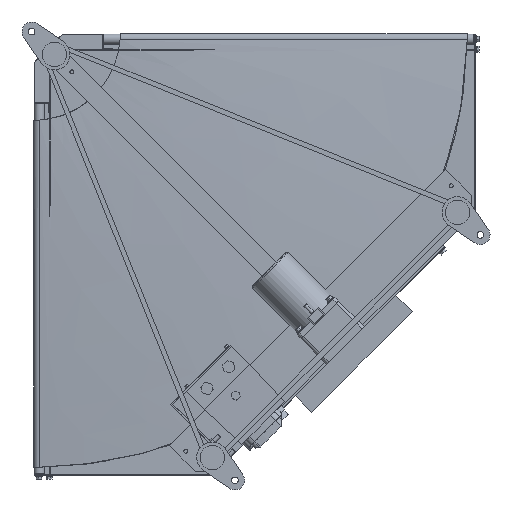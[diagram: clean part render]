
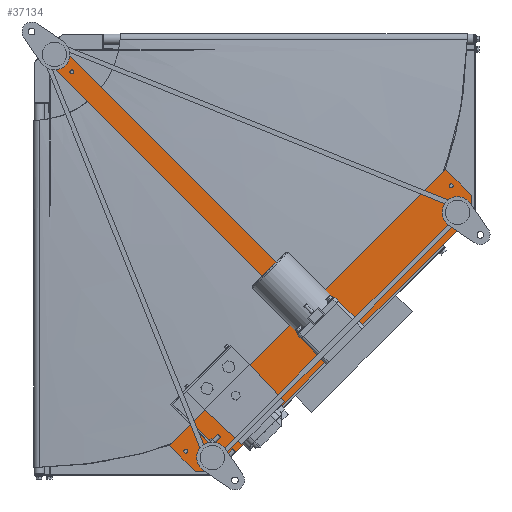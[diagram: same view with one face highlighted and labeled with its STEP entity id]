
A CAD part, front view. The second image highlights one B-rep face of the part: STEP entity #37134.
In plain terms, the highlighted planar face has unit normal (0, -1, 0).
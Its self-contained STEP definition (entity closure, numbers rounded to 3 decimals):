
#822 = CARTESIAN_POINT ( 'NONE',  ( 266.226, -167.5, -807.162 ) ) ;
#1287 = VERTEX_POINT ( 'NONE', #45456 ) ;
#2416 = LINE ( 'NONE', #34209, #37251 ) ;
#2473 = CARTESIAN_POINT ( 'NONE',  ( 550.129, -167.5, -523.259 ) ) ;
#3254 = ORIENTED_EDGE ( 'NONE', *, *, #13149, .F. ) ;
#3820 = EDGE_CURVE ( 'NONE', #4958, #10342, #36141, .T. ) ;
#4453 = ORIENTED_EDGE ( 'NONE', *, *, #46258, .F. ) ;
#4953 = VECTOR ( 'NONE', #35619, 1000. ) ;
#4958 = VERTEX_POINT ( 'NONE', #2473 ) ;
#5278 = VECTOR ( 'NONE', #24528, 1000. ) ;
#5934 = VECTOR ( 'NONE', #40642, 1000. ) ;
#6686 = LINE ( 'NONE', #33157, #11586 ) ;
#8004 = VERTEX_POINT ( 'NONE', #822 ) ;
#8552 = LINE ( 'NONE', #18739, #31273 ) ;
#8652 = LINE ( 'NONE', #12112, #36786 ) ;
#10241 = CARTESIAN_POINT ( 'NONE',  ( 266.226, -167.5, -807.162 ) ) ;
#10342 = VERTEX_POINT ( 'NONE', #43401 ) ;
#11586 = VECTOR ( 'NONE', #20907, 1000. ) ;
#11657 = CARTESIAN_POINT ( 'NONE',  ( 856.66, -167.5, -358.15 ) ) ;
#12112 = CARTESIAN_POINT ( 'NONE',  ( 358.15, -167.5, -856.66 ) ) ;
#12774 = LINE ( 'NONE', #47061, #17686 ) ;
#13149 = EDGE_CURVE ( 'NONE', #8004, #1287, #2416, .T. ) ;
#13194 = EDGE_CURVE ( 'NONE', #14171, #8004, #48831, .T. ) ;
#14171 = VERTEX_POINT ( 'NONE', #46289 ) ;
#16484 = VECTOR ( 'NONE', #25883, 1000. ) ;
#16563 = AXIS2_PLACEMENT_3D ( 'NONE', #17026, #20847, #32269 ) ;
#16602 = CARTESIAN_POINT ( 'NONE',  ( 15.203, -167.5, -42.073 ) ) ;
#16611 = ORIENTED_EDGE ( 'NONE', *, *, #13194, .F. ) ;
#17026 = CARTESIAN_POINT ( 'NONE',  ( 0., -167.5, 0. ) ) ;
#17686 = VECTOR ( 'NONE', #39390, 1000. ) ;
#18739 = CARTESIAN_POINT ( 'NONE',  ( 42.073, -167.5, -15.203 ) ) ;
#19861 = DIRECTION ( 'NONE',  ( -0.707, 0., -0.707 ) ) ;
#20017 = EDGE_CURVE ( 'NONE', #10342, #20796, #47992, .T. ) ;
#20572 = VECTOR ( 'NONE', #41316, 1000. ) ;
#20773 = EDGE_CURVE ( 'NONE', #47852, #36029, #8652, .T. ) ;
#20796 = VERTEX_POINT ( 'NONE', #46800 ) ;
#20847 = DIRECTION ( 'NONE',  ( 0., -1., 0. ) ) ;
#20907 = DIRECTION ( 'NONE',  ( 0., 0., -1. ) ) ;
#21478 = ORIENTED_EDGE ( 'NONE', *, *, #20773, .F. ) ;
#22632 = DIRECTION ( 'NONE',  ( 0.707, 0., 0.707 ) ) ;
#22721 = DIRECTION ( 'NONE',  ( 0.707, 0., -0.707 ) ) ;
#23891 = CARTESIAN_POINT ( 'NONE',  ( 266.226, -167.5, -807.162 ) ) ;
#24431 = EDGE_CURVE ( 'NONE', #1287, #49533, #12774, .T. ) ;
#24528 = DIRECTION ( 'NONE',  ( 0.707, 0., 0.707 ) ) ;
#24616 = ORIENTED_EDGE ( 'NONE', *, *, #30651, .F. ) ;
#25599 = EDGE_CURVE ( 'NONE', #49533, #36433, #26788, .T. ) ;
#25883 = DIRECTION ( 'NONE',  ( -0.707, 0., 0.707 ) ) ;
#26093 = ORIENTED_EDGE ( 'NONE', *, *, #34996, .F. ) ;
#26285 = CARTESIAN_POINT ( 'NONE',  ( 15.203, -167.5, -42.073 ) ) ;
#26788 = LINE ( 'NONE', #16602, #5278 ) ;
#27123 = CARTESIAN_POINT ( 'NONE',  ( 42.073, -167.5, -15.203 ) ) ;
#30651 = EDGE_CURVE ( 'NONE', #20796, #47852, #6686, .T. ) ;
#31273 = VECTOR ( 'NONE', #22721, 1000. ) ;
#32157 = ORIENTED_EDGE ( 'NONE', *, *, #24431, .F. ) ;
#32269 = DIRECTION ( 'NONE',  ( 0., 0., -1. ) ) ;
#33157 = CARTESIAN_POINT ( 'NONE',  ( 856.66, -167.5, -358.15 ) ) ;
#33702 = CARTESIAN_POINT ( 'NONE',  ( 807.162, -167.5, -266.226 ) ) ;
#34209 = CARTESIAN_POINT ( 'NONE',  ( 266.226, -167.5, -807.162 ) ) ;
#34996 = EDGE_CURVE ( 'NONE', #36433, #4958, #8552, .T. ) ;
#35619 = DIRECTION ( 'NONE',  ( 0.707, 0., 0.707 ) ) ;
#36029 = VERTEX_POINT ( 'NONE', #39332 ) ;
#36141 = LINE ( 'NONE', #23891, #4953 ) ;
#36251 = CARTESIAN_POINT ( 'NONE',  ( 315.723, -167.5, -856.66 ) ) ;
#36433 = VERTEX_POINT ( 'NONE', #27123 ) ;
#36786 = VECTOR ( 'NONE', #19861, 1000. ) ;
#37134 = ADVANCED_FACE ( 'NONE', ( #38573 ), #40071, .T. ) ;
#37251 = VECTOR ( 'NONE', #22632, 1000. ) ;
#38573 = FACE_OUTER_BOUND ( 'NONE', #46958, .T. ) ;
#39332 = CARTESIAN_POINT ( 'NONE',  ( 358.15, -167.5, -856.66 ) ) ;
#39390 = DIRECTION ( 'NONE',  ( -0.707, 0., 0.707 ) ) ;
#40071 = PLANE ( 'NONE',  #16563 ) ;
#40510 = ORIENTED_EDGE ( 'NONE', *, *, #20017, .F. ) ;
#40642 = DIRECTION ( 'NONE',  ( -1., 0., 0. ) ) ;
#41316 = DIRECTION ( 'NONE',  ( 0.707, 0., -0.707 ) ) ;
#41669 = ORIENTED_EDGE ( 'NONE', *, *, #3820, .F. ) ;
#43401 = CARTESIAN_POINT ( 'NONE',  ( 807.162, -167.5, -266.226 ) ) ;
#45456 = CARTESIAN_POINT ( 'NONE',  ( 523.259, -167.5, -550.129 ) ) ;
#46258 = EDGE_CURVE ( 'NONE', #36029, #14171, #47511, .T. ) ;
#46289 = CARTESIAN_POINT ( 'NONE',  ( 315.723, -167.5, -856.66 ) ) ;
#46800 = CARTESIAN_POINT ( 'NONE',  ( 856.66, -167.5, -315.723 ) ) ;
#46958 = EDGE_LOOP ( 'NONE', ( #32157, #3254, #16611, #4453, #21478, #24616, #40510, #41669, #26093, #48607 ) ) ;
#47061 = CARTESIAN_POINT ( 'NONE',  ( 15.203, -167.5, -42.073 ) ) ;
#47511 = LINE ( 'NONE', #36251, #5934 ) ;
#47852 = VERTEX_POINT ( 'NONE', #11657 ) ;
#47992 = LINE ( 'NONE', #33702, #20572 ) ;
#48607 = ORIENTED_EDGE ( 'NONE', *, *, #25599, .F. ) ;
#48831 = LINE ( 'NONE', #10241, #16484 ) ;
#49533 = VERTEX_POINT ( 'NONE', #26285 ) ;
